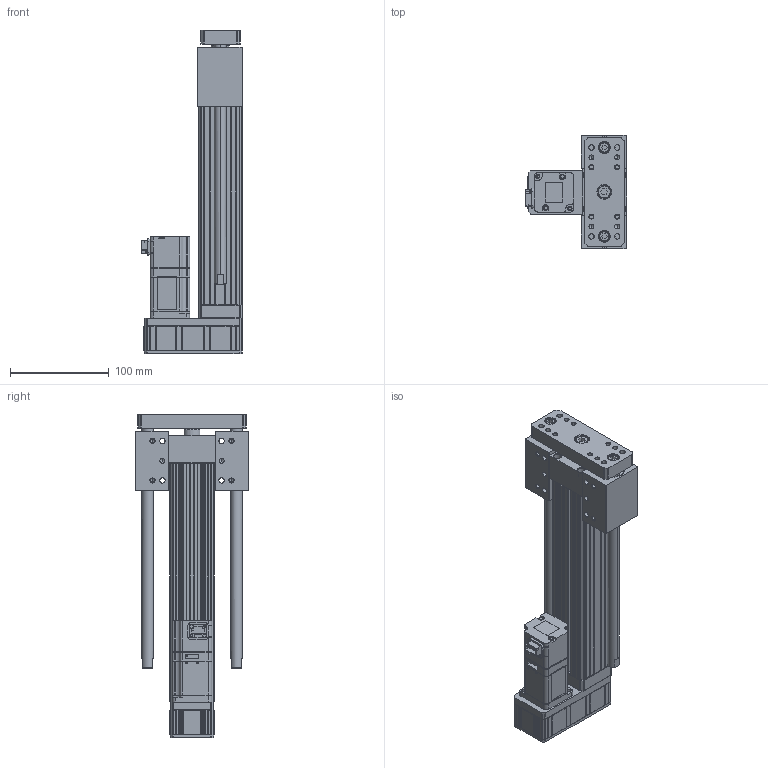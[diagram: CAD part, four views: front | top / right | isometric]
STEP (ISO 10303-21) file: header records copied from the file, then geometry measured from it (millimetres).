
FILE_DESCRIPTION (( 'STEP AP203' ), '1' );
FILE_NAME ('ANS045-HP150-05(10)-W10.STEP', '2019-02-14T03:03:47', ( 'user' ), ( '' ), 'SwSTEP 2.0', 'SolidWorks 2013', '' );
FILE_SCHEMA (( 'CONFIG_CONTROL_DESIGN' ));
Length unit declared in the file: millimetre
Products named in the file (4): ANS045 HP150 VER2; ANS045 ROD ST150 H; SGMJV_01A_A21; ANS045-HP150-05(10)-W10
Assembly tree (3 placements, depth 2):
  ANS045-HP150-05(10)-W10
    ANS045 HP150 VER2
    ANS045 ROD ST150 H
    SGMJV_01A_A21
Bounding box: 102.3 x 115 x 327.5 mm (x, y, z)
Volume: 830318.9 mm3; surface area: 239369.4 mm2
Topology: 3 solids, 11 shells, 1245 faces, 3210 edges, 2044 vertices
Faces by surface type: plane 670, cylinder 431, cone 142, bspline 2
Entity records: 38032 total; most frequent: CARTESIAN_POINT 7187, ORIENTED_EDGE 6380, DIRECTION 6326, EDGE_CURVE 3190, LINE 2140, VECTOR 2140, AXIS2_PLACEMENT_3D 2093, VERTEX_POINT 2044
